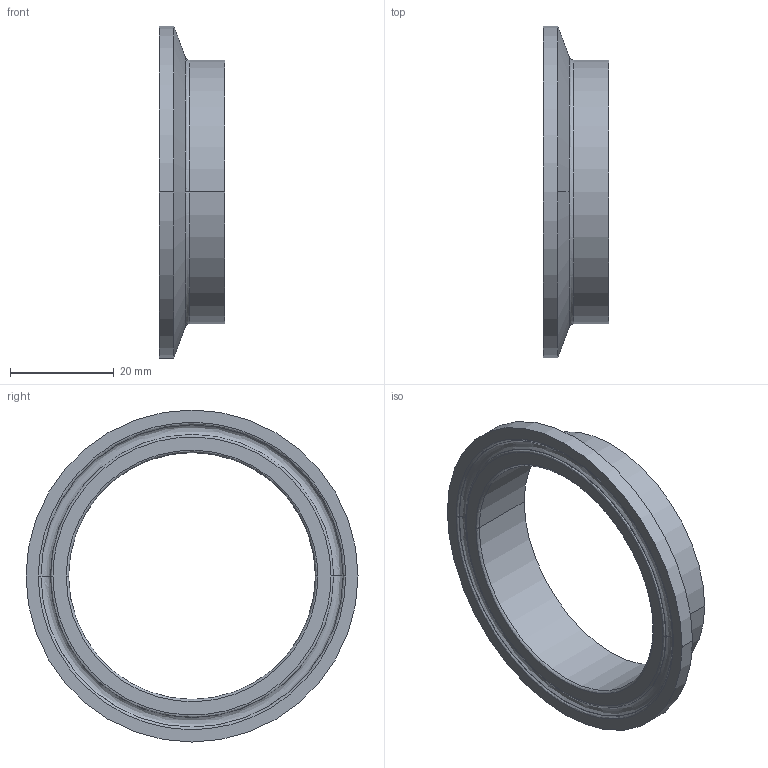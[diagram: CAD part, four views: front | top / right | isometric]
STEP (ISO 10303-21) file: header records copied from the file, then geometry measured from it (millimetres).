
FILE_DESCRIPTION (( 'STEP AP214' ), '1' );
FILE_NAME ('TEG2CS6L2.0.STEP', '2016-05-22T12:00:33', ( 'eran' ), ( '' ), 'SwSTEP 2.0', 'SolidWorks 2016', '' );
FILE_SCHEMA (( 'AUTOMOTIVE_DESIGN' ));
Length unit declared in the file: millimetre
Products named in the file (1): TEG2CS6L2.0
Bounding box: 12.7 x 63.91 x 63.91 mm (x, y, z)
Volume: 7727.5 mm3; surface area: 6653.1 mm2
Topology: 1 solids, 1 shells, 25 faces, 62 edges, 40 vertices
Faces by surface type: bspline 10, cylinder 6, cone 6, plane 3
Entity records: 1463 total; most frequent: CARTESIAN_POINT 838, DIRECTION 132, ORIENTED_EDGE 124, EDGE_CURVE 62, AXIS2_PLACEMENT_3D 60, CIRCLE 44, VERTEX_POINT 40, EDGE_LOOP 28
